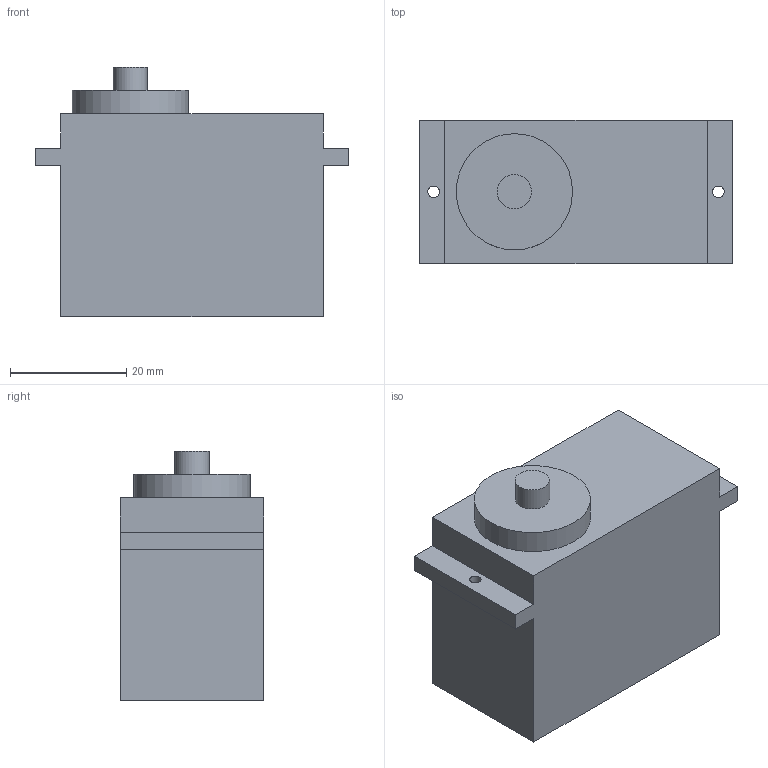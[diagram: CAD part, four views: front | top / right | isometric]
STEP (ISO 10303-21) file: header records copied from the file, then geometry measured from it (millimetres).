
FILE_DESCRIPTION(('FreeCAD Model'),'2;1');
FILE_NAME('Open CASCADE Shape Model','2026-11-08T23:31:29',('FreeCAD'),( 'FreeCAD'),'Open CASCADE STEP processor 7.8','FreeCAD','Unknown');
FILE_SCHEMA(('AUTOMOTIVE_DESIGN { 1 0 10303 214 1 1 1 1 }'));
Length unit declared in the file: millimetre
Products named in the file (1): Open CASCADE STEP translator 7.8 10
Bounding box: 54 x 24.7 x 43 mm (x, y, z)
Volume: 41074.6 mm3; surface area: 7964 mm2
Topology: 1 solids, 1 shells, 20 faces, 48 edges, 32 vertices
Faces by surface type: plane 16, cylinder 4
Full cylindrical faces by diameter (mm): 2 x2, 5.9 x1, 20 x1
Entity records: 598 total; most frequent: CARTESIAN_POINT 101, DIRECTION 98, ORIENTED_EDGE 96, EDGE_CURVE 48, LINE 40, VECTOR 40, VERTEX_POINT 32, AXIS2_PLACEMENT_3D 29
